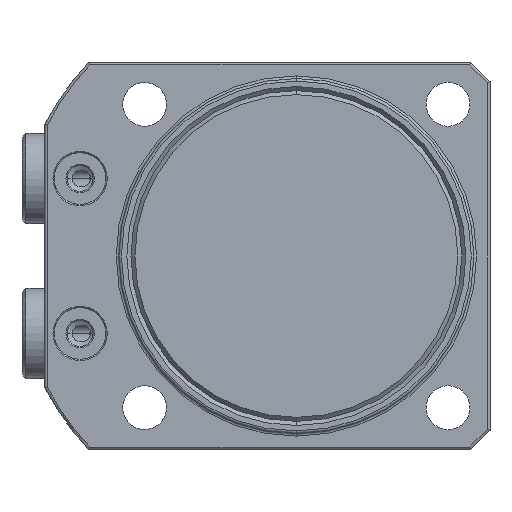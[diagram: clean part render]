
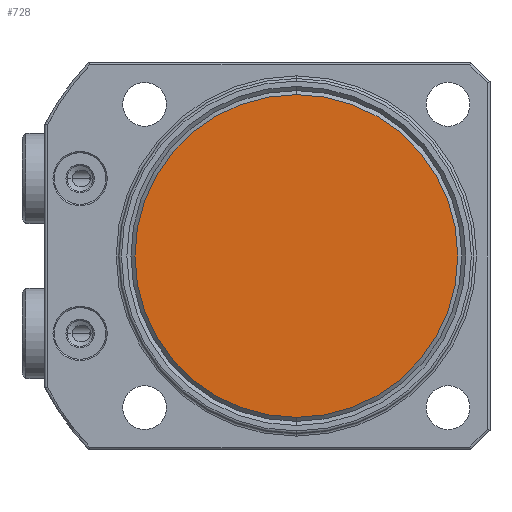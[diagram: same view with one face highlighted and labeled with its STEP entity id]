
A CAD part, front view. The second image highlights one B-rep face of the part: STEP entity #728.
In plain terms, the highlighted planar face has unit normal (0, -1, 0) as drawn and (1, 0, 0) by its records, which use the part's own axes.
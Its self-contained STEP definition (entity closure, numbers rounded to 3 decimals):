
#477=PLANE('',#3002);
#728=ADVANCED_FACE('',(#913),#477,.T.);
#913=FACE_OUTER_BOUND('',#1047,.T.);
#1047=EDGE_LOOP('',(#1627,#1628));
#1627=ORIENTED_EDGE('',*,*,#2420,.F.);
#1628=ORIENTED_EDGE('',*,*,#2537,.F.);
#2197=VERTEX_POINT('',#4051);
#2198=VERTEX_POINT('',#4052);
#2420=EDGE_CURVE('',#2197,#2198,#2761,.T.);
#2537=EDGE_CURVE('',#2198,#2197,#2805,.T.);
#2761=CIRCLE('',#2929,25.);
#2805=CIRCLE('',#3001,25.);
#2929=AXIS2_PLACEMENT_3D('',#4050,#3287,#3288);
#3001=AXIS2_PLACEMENT_3D('',#4527,#3483,#3484);
#3002=AXIS2_PLACEMENT_3D('',#4528,#3485,#3486);
#3287=DIRECTION('',(-1.,0.,0.));
#3288=DIRECTION('',(0.,0.,1.));
#3483=DIRECTION('',(-1.,0.,0.));
#3484=DIRECTION('',(0.,0.,1.));
#3485=DIRECTION('',(1.,0.,0.));
#3486=DIRECTION('',(0.,0.,1.));
#4050=CARTESIAN_POINT('',(89.,0.,0.));
#4051=CARTESIAN_POINT('',(89.,0.,25.));
#4052=CARTESIAN_POINT('',(89.,0.,-25.));
#4527=CARTESIAN_POINT('',(89.,0.,0.));
#4528=CARTESIAN_POINT('',(89.,0.,0.));
